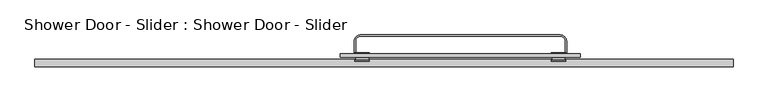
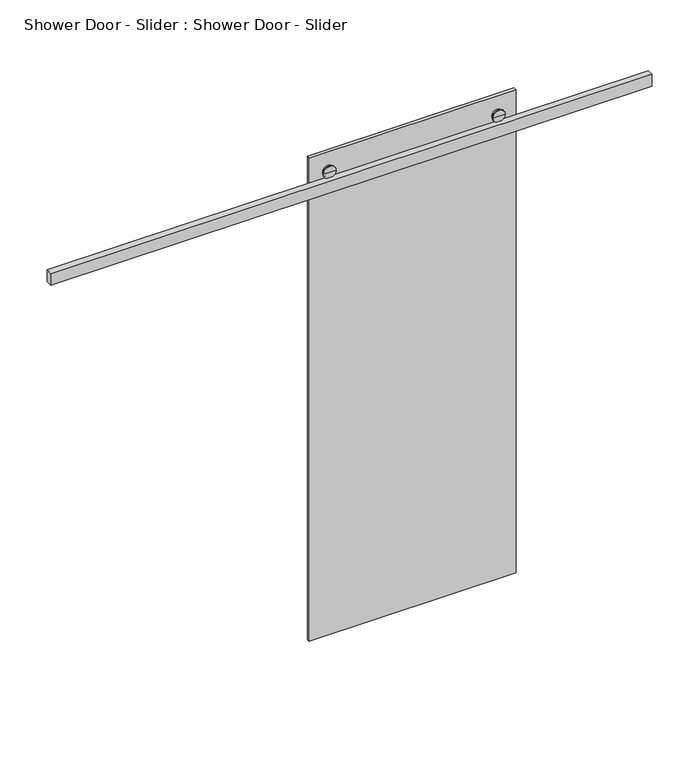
"""IFC4 building model written with IfcOpenShell, lengths in millimetres: plate geometry, Shower Door - Slider : Shower Door - Slider."""

import ifcopenshell
import ifcopenshell.guid

model = None  # the IFC model being written
_history = None  # IfcOwnerHistory: only IFC2X3 demands one
_inside = {}  # id of a spatial element -> (the spatial element, [elements in it])
_under = {}  # id of a project, library or spatial element -> (it, [spatial elements below it])
_declared = {}  # id of a project -> (the project, [libraries it declares])
_typed = {}  # id of a type object -> (the type object, [elements of that type])
_made_of = {}  # id of a material, layer set ... -> (it, [elements and type objects made of it])


def new_model(schema):
    """Start an empty IFC model of exactly this schema.

    Asked for "IFC4X3", IfcOpenShell would pick the latest addendum, in which some entities
    have other attributes; the version numbers below select the first issue.
    IFC2X3 requires an IfcOwnerHistory on every rooted entity: one is made here for all.
    """
    global model, _history
    if schema == "IFC4X3":
        model = ifcopenshell.file(schema_version=(4, 3, 0, 0))
    else:
        model = ifcopenshell.file(schema=schema)
    _inside.clear()
    _under.clear()
    _declared.clear()
    _typed.clear()
    _made_of.clear()
    _history = None
    if model.schema == "IFC2X3":
        org = make("IfcOrganization", Name="unknown")
        user = make(
            "IfcPersonAndOrganization",
            ThePerson=make("IfcPerson", FamilyName="unknown"),
            TheOrganization=org,
        )
        app = make(
            "IfcApplication",
            ApplicationDeveloper=org,
            Version="unknown",
            ApplicationFullName="unknown",
            ApplicationIdentifier="unknown",
        )
        _history = make(
            "IfcOwnerHistory",
            OwningUser=user,
            OwningApplication=app,
            ChangeAction="ADDED",
            CreationDate=0,
        )
    return model


def make(cls, **values):
    """One entity of the class cls with the attributes given. An attribute that is None is left unset."""
    return model.create_entity(
        cls, **{name: value for name, value in values.items() if value is not None}
    )


def rooted(cls, **values):
    """An entity with a GlobalId (a new one), such as an element, a storey or a relation."""
    return make(cls, GlobalId=ifcopenshell.guid.new(), OwnerHistory=_history, **values)


def si_unit(unit_type, name, prefix=None):
    """IfcSIUnit, for example si_unit("LENGTHUNIT", "METRE", prefix="MILLI")."""
    return make("IfcSIUnit", UnitType=unit_type, Prefix=prefix, Name=name)


def assignment(units):
    """IfcUnitAssignment: the units of a project."""
    return None if units is None else make("IfcUnitAssignment", Units=units)


def point(xyz):
    """IfcCartesianPoint."""
    return None if xyz is None else make("IfcCartesianPoint", Coordinates=xyz)


def direction(xyz):
    """IfcDirection."""
    return None if xyz is None else make("IfcDirection", DirectionRatios=xyz)


def frame(location, z_axis=None, x_axis=None):
    """IfcAxis2Placement3D, a coordinate frame: its origin and axes. An axis left out is left unset."""
    return make(
        "IfcAxis2Placement3D",
        Location=point(location),
        Axis=direction(z_axis),
        RefDirection=direction(x_axis),
    )


def frame_2d(location, x_axis=None):
    """IfcAxis2Placement2D, a coordinate frame in the plane: its origin and x axis."""
    return make(
        "IfcAxis2Placement2D", Location=point(location), RefDirection=direction(x_axis)
    )


def origin():
    """The frame at (0, 0, 0) with its axes left unset."""
    return frame((0.0, 0.0, 0.0))


def place(relative_to, where):
    """IfcLocalPlacement: puts the frame where relative to a parent placement (None: the world)."""
    return make(
        "IfcLocalPlacement", PlacementRelTo=relative_to, RelativePlacement=where
    )


def context(
    kind, dimensions, precision=None, world=None, true_north=None, identifier=None
):
    """IfcGeometricRepresentationContext, for example the 3D "Model" context."""
    return make(
        "IfcGeometricRepresentationContext",
        ContextIdentifier=identifier,
        ContextType=kind,
        CoordinateSpaceDimension=dimensions,
        Precision=precision,
        WorldCoordinateSystem=world,
        TrueNorth=true_north,
    )


def project(units=None, contexts=None):
    """IfcProject with its units and contexts."""
    return rooted(
        "IfcProject",
        Name="project",
        RepresentationContexts=contexts,
        UnitsInContext=assignment(units),
    )


def spatial(cls, under=None, at=None, **own):
    """A site, building, storey or space (cls), placed at a placement, below another one or the project."""
    s = rooted(cls, ObjectPlacement=at, **own)
    if under is not None:
        _under.setdefault(under.id(), (under, []))[1].append(s)
    return s


def polyline(points):
    """IfcPolyline through the points."""
    return make("IfcPolyline", Points=[point(p) for p in points])


def circle_curve(where, radius):
    """IfcCircle in the frame where."""
    return make("IfcCircle", Position=where, Radius=radius)


def trimmed(basis, trim1, trim2, sense, master):
    """IfcTrimmedCurve: the piece of a basis curve between two trims."""
    return make(
        "IfcTrimmedCurve",
        BasisCurve=basis,
        Trim1=trim1,
        Trim2=trim2,
        SenseAgreement=sense,
        MasterRepresentation=master,
    )


def segment(curve, same_sense, transition):
    """IfcCompositeCurveSegment."""
    return make(
        "IfcCompositeCurveSegment",
        Transition=transition,
        SameSense=same_sense,
        ParentCurve=curve,
    )


def composite_curve(segments, self_intersect=None):
    """IfcCompositeCurve: segments joined end to end."""
    return make("IfcCompositeCurve", Segments=segments, SelfIntersect=self_intersect)


def outline(outer, holes=None, kind="AREA"):
    """IfcArbitraryClosedProfileDef: a profile drawn as a closed curve; with holes, ...WithVoids."""
    if holes is None:
        return make("IfcArbitraryClosedProfileDef", ProfileType=kind, OuterCurve=outer)
    return make(
        "IfcArbitraryProfileDefWithVoids",
        ProfileType=kind,
        OuterCurve=outer,
        InnerCurves=holes,
    )


def extrude(swept, where, along, depth):
    """IfcExtrudedAreaSolid: the profile swept, set in the frame where, extruded along a direction by depth."""
    return make(
        "IfcExtrudedAreaSolid",
        SweptArea=swept,
        Position=where,
        ExtrudedDirection=direction(along),
        Depth=depth,
    )


def shape(context_of_items, identifier, shape_type, items):
    """IfcShapeRepresentation: the items that make up one representation, for example the "Body"."""
    return make(
        "IfcShapeRepresentation",
        ContextOfItems=context_of_items,
        RepresentationIdentifier=identifier,
        RepresentationType=shape_type,
        Items=items,
    )


def source(mapping_origin, context_of_items, identifier, shape_type, items):
    """IfcRepresentationMap: a shape defined once, which mapped items show again and again."""
    return make(
        "IfcRepresentationMap",
        MappingOrigin=mapping_origin,
        MappedRepresentation=shape(context_of_items, identifier, shape_type, items),
    )


def transform(
    local_origin,
    x_axis=None,
    y_axis=None,
    z_axis=None,
    scale=None,
    scale2=None,
    scale3=None,
    uniform=True,
):
    """IfcCartesianTransformationOperator3D, or its non-uniform kind. x_axis, y_axis, z_axis: its Axis1, 2, 3."""
    if uniform:
        return make(
            "IfcCartesianTransformationOperator3D",
            Axis1=direction(x_axis),
            Axis2=direction(y_axis),
            LocalOrigin=point(local_origin),
            Scale=scale,
            Axis3=direction(z_axis),
        )
    return make(
        "IfcCartesianTransformationOperator3DnonUniform",
        Axis1=direction(x_axis),
        Axis2=direction(y_axis),
        LocalOrigin=point(local_origin),
        Scale=scale,
        Axis3=direction(z_axis),
        Scale2=scale2,
        Scale3=scale3,
    )


def mapped(mapping_source, mapping_target):
    """IfcMappedItem: shows the shape of a source again, moved by a transform."""
    return make(
        "IfcMappedItem", MappingSource=mapping_source, MappingTarget=mapping_target
    )


def made_of(thing, what):
    """Note that an element or type object is made of a material, layer set ...; save() writes the relation."""
    if what is not None:
        _made_of.setdefault(what.id(), (what, []))[1].append(thing)
    return thing


def element(
    cls,
    number,
    at=None,
    inside=None,
    cuts=None,
    type_object=None,
    material=None,
    context=None,
    identifier="Body",
    shape_type=None,
    held_by="IfcProductDefinitionShape",
    body=None,
    shapes=None,
    **own,
):
    """One element of the class cls, such as IfcWall. Its Tag is "e" and its number.

    at: its placement. inside: the storey or other place that contains it. cuts: it is an
    opening in that element (IfcRelVoidsElement). A single representation is given by context,
    identifier, shape_type and body (its items); several are given by shapes. held_by: the class
    of the entity that holds the representations. save() writes the other relations.
    """
    e = rooted(cls, Tag="e%d" % number, ObjectPlacement=at, **own)
    if body is not None:
        shapes = [shape(context, identifier, shape_type, body)]
    if shapes is not None:
        e.Representation = make(held_by, Representations=shapes)
    if inside is not None:
        _inside.setdefault(inside.id(), (inside, []))[1].append(e)
    if cuts is not None:
        rooted(
            "IfcRelVoidsElement", RelatingBuildingElement=cuts, RelatedOpeningElement=e
        )
    if type_object is not None:
        _typed.setdefault(type_object.id(), (type_object, []))[1].append(e)
    return made_of(e, material)


def aggregate(whole, parts):
    """IfcRelAggregates: a whole, such as a stair, and the parts it consists of."""
    return rooted("IfcRelAggregates", RelatingObject=whole, RelatedObjects=parts)


def save(model, path):
    """Write the relations noted so far, then the file.

    IfcRelAggregates (storeys below a building ...), IfcRelContainedInSpatialStructure (elements
    in a storey), IfcRelDefinesByType, IfcRelAssociatesMaterial and IfcRelDeclares: one each for
    every whole, place, type object, material and project.
    """
    for whole, parts in _under.values():
        aggregate(whole, parts)
    for where, things in _inside.values():
        rooted(
            "IfcRelContainedInSpatialStructure",
            RelatedElements=things,
            RelatingStructure=where,
        )
    for kind, things in _typed.values():
        rooted("IfcRelDefinesByType", RelatedObjects=things, RelatingType=kind)
    for what, things in _made_of.values():
        rooted("IfcRelAssociatesMaterial", RelatedObjects=things, RelatingMaterial=what)
    for by, libraries in _declared.values():
        rooted("IfcRelDeclares", RelatingContext=by, RelatedDefinitions=libraries)
    model.write(path)


def plane_surface(at):
    """IfcPlane: the flat surface through the origin of the frame at, square to its z axis."""
    return make("IfcPlane", Position=at)


def cylinder_surface(at, radius):
    """IfcCylindricalSurface: all points at the distance radius from the z axis of the frame at."""
    return make("IfcCylindricalSurface", Position=at, Radius=radius)


def advanced_brep(points, edges, surfaces, faces):
    """IfcAdvancedBrep: a solid bounded by faces that lie on surfaces and meet in shared edges.

    An edge is (start, end): straight between two places in points (the first is 0);
    or (start, end, curve); or (start, end, curve, False) where it runs against its curve.
    A face is (place in surfaces, loops), or (place, loops, False) where it looks against
    its surface's normal. A loop lists edges by number (the first is 1), with a minus sign
    where the edge is run from its end to its start. The first loop is the outer one.
    """
    corners = [point(p) for p in points]
    vertices = [make("IfcVertexPoint", VertexGeometry=c) for c in corners]
    made = []
    for start, end, *more in edges:
        made.append(
            make(
                "IfcEdgeCurve",
                EdgeStart=vertices[start],
                EdgeEnd=vertices[end],
                EdgeGeometry=more[0] if more else make("IfcPolyline", Points=[corners[start], corners[end]]),
                SameSense=more[1] if len(more) > 1 else True,
            )
        )
    hull = []
    for where, loops, *sense in faces:
        bounds = []
        for j, loop in enumerate(loops):
            ring = [make("IfcOrientedEdge", EdgeElement=made[abs(k) - 1], Orientation=k > 0) for k in loop]
            bounds.append(
                make(
                    "IfcFaceOuterBound" if j == 0 else "IfcFaceBound",
                    Bound=make("IfcEdgeLoop", EdgeList=ring),
                    Orientation=True,
                )
            )
        hull.append(make("IfcAdvancedFace", Bounds=bounds, FaceSurface=surfaces[where], SameSense=sense[0] if sense else True))
    return make("IfcAdvancedBrep", Outer=make("IfcClosedShell", CfsFaces=hull))


def shower_door_slider_shower_door_slider_6a6f9825(model_context):
    return source(origin(), model_context, "Body", "SolidModel", [
        extrude(outline(composite_curve([segment(polyline([(-365.9124, 31.75), (-370.6876, 31.75), (-370.6876, 76.2)]), True, "CONTINUOUS"), segment(trimmed(circle_curve(frame_2d((-349.25, 76.2)), 21.4376), [point((-370.6876, 76.2))], [point((-349.25, 97.6376))], False, "CARTESIAN"), True, "CONTINUOUS"), segment(polyline([(-349.25, 97.6376), (349.25, 97.6376)]), True, "CONTINUOUS"), segment(trimmed(circle_curve(frame_2d((349.25, 76.2)), 21.4376), [point((349.25, 97.6376))], [point((370.6876, 76.2))], False, "CARTESIAN"), True, "CONTINUOUS"), segment(polyline([(370.6876, 76.2), (370.6876, 31.75), (365.9124, 31.75), (365.9124, 76.2)]), True, "CONTINUOUS"), segment(trimmed(circle_curve(frame_2d((349.25, 76.2)), 16.6624), [point((365.9124, 76.2))], [point((349.25, 92.8624))], True, "CARTESIAN"), True, "CONTINUOUS"), segment(polyline([(349.25, 92.8624), (-349.25, 92.8624)]), True, "CONTINUOUS"), segment(trimmed(circle_curve(frame_2d((-349.25, 76.2)), 16.6624), [point((-349.25, 92.8624))], [point((-365.9124, 76.2))], True, "CARTESIAN"), True, "CONTINUOUS"), segment(polyline([(-365.9124, 76.2), (-365.9124, 31.75)]), True, "CONTINUOUS")], self_intersect=False)), frame((0.0, 0.0, 876.3), z_axis=(0.0, 0.0, 1.0), x_axis=(1.0, 0.0, 0.0)), (0.0, 0.0, 1.0), 38.1),
        advanced_brep(
        [(368.3, 6.35, 2003.425), (342.9, 6.35, 2003.425), (317.5, 6.35, 2003.425), (368.3, 9.525, 2003.425), (317.5, 9.525, 2003.425), (365.125, 9.525, 2003.425), (320.675, 9.525, 2003.425), (365.125, 19.05, 2003.425), (320.675, 19.05, 2003.425), (342.9, 19.05, 2003.425)],
        [
            (0, 1),
            (1, 2),
            (2, 0, circle_curve(frame((342.9, 6.35, 2003.425), z_axis=(0.0, -1.0, 0.0), x_axis=(-1.0, 0.0, 0.0)), 25.4)),
            (0, 2, circle_curve(frame((342.9, 6.35, 2003.425), z_axis=(0.0, -1.0, 0.0), x_axis=(-1.0, 0.0, 0.0)), 25.4)),
            (3, 0),
            (2, 4),
            (4, 3, circle_curve(frame((342.9, 9.525, 2003.425), z_axis=(0.0, -1.0, 0.0), x_axis=(-1.0, 0.0, 0.0)), 25.4)),
            (3, 4, circle_curve(frame((342.9, 9.525, 2003.425), z_axis=(0.0, -1.0, 0.0), x_axis=(-1.0, 0.0, 0.0)), 25.4)),
            (5, 3),
            (4, 6),
            (6, 5, circle_curve(frame((342.9, 9.525, 2003.425), z_axis=(0.0, -1.0, 0.0), x_axis=(-1.0, 0.0, 0.0)), 22.225)),
            (5, 6, circle_curve(frame((342.9, 9.525, 2003.425), z_axis=(0.0, -1.0, 0.0), x_axis=(-1.0, 0.0, 0.0)), 22.225)),
            (7, 5),
            (6, 8),
            (8, 7, circle_curve(frame((342.9, 19.05, 2003.425), z_axis=(0.0, -1.0, 0.0), x_axis=(-1.0, 0.0, 0.0)), 22.225)),
            (7, 8, circle_curve(frame((342.9, 19.05, 2003.425), z_axis=(0.0, -1.0, 0.0), x_axis=(-1.0, 0.0, 0.0)), 22.225)),
            (9, 7),
            (8, 9),
        ],
        [
            plane_surface(frame((342.9, 6.35, 2003.425), z_axis=(0.0, -1.0, 0.0), x_axis=(-1.0, 0.0, 0.0))),
            cylinder_surface(frame((342.9, 31.75, 2003.425), z_axis=(0.0, 1.0, 0.0), x_axis=(-1.0, 0.0, 0.0)), 25.4),
            plane_surface(frame((342.9, 9.525, 2003.425), z_axis=(0.0, 1.0, 0.0), x_axis=(-1.0, 0.0, 0.0))),
            cylinder_surface(frame((342.9, 31.75, 2003.425), z_axis=(0.0, 1.0, 0.0), x_axis=(-1.0, 0.0, 0.0)), 22.225),
            plane_surface(frame((342.9, 19.05, 2003.425), z_axis=(0.0, 1.0, 0.0), x_axis=(-1.0, 0.0, 0.0))),
        ],
        [
            (0, [[1, 2, 3]]),
            (0, [[-2, -1, 4]]),
            (1, [[5, -3, 6, 7]]),
            (1, [[-6, -4, -5, 8]]),
            (2, [[9, -7, 10, 11]]),
            (2, [[-10, -8, -9, 12]]),
            (3, [[13, -11, 14, 15]]),
            (3, [[-14, -12, -13, 16]]),
            (4, [[17, -15, 18]]),
            (4, [[-18, -16, -17]]),
        ],
    ),
        advanced_brep(
        [(342.9, 34.925, 2003.425), (368.3, 34.925, 2003.425), (317.5, 34.925, 2003.425), (368.3, 31.75, 2003.425), (342.9, 31.75, 2003.425), (317.5, 31.75, 2003.425)],
        [
            (0, 1),
            (1, 2, circle_curve(frame((342.9, 34.925, 2003.425), z_axis=(0.0, 1.0, 0.0), x_axis=(-1.0, 0.0, 0.0)), 25.4)),
            (2, 0),
            (2, 1, circle_curve(frame((342.9, 34.925, 2003.425), z_axis=(0.0, 1.0, 0.0), x_axis=(-1.0, 0.0, 0.0)), 25.4)),
            (3, 4),
            (4, 5),
            (5, 3, circle_curve(frame((342.9, 31.75, 2003.425), z_axis=(0.0, -1.0, 0.0), x_axis=(-1.0, 0.0, 0.0)), 25.4)),
            (3, 5, circle_curve(frame((342.9, 31.75, 2003.425), z_axis=(0.0, -1.0, 0.0), x_axis=(-1.0, 0.0, 0.0)), 25.4)),
            (1, 3),
            (5, 2),
        ],
        [
            plane_surface(frame((342.9, 34.925, 2003.425), z_axis=(0.0, 1.0, 0.0), x_axis=(-1.0, 0.0, 0.0))),
            plane_surface(frame((342.9, 31.75, 2003.425), z_axis=(0.0, -1.0, 0.0), x_axis=(-1.0, 0.0, 0.0))),
            cylinder_surface(frame((342.9, 31.75, 2003.425), z_axis=(0.0, 1.0, 0.0), x_axis=(-1.0, 0.0, 0.0)), 25.4),
        ],
        [
            (0, [[1, 2, 3]]),
            (0, [[-3, 4, -1]]),
            (1, [[5, 6, 7]]),
            (1, [[-6, -5, 8]]),
            (2, [[9, -7, 10, -2]]),
            (2, [[-10, -8, -9, -4]]),
        ],
    ),
        advanced_brep(
        [(-368.3, 6.35, 2003.425), (-317.5, 6.35, 2003.425), (-342.9, 6.35, 2003.425), (-368.3, 9.525, 2003.425), (-317.5, 9.525, 2003.425), (-365.125, 9.525, 2003.425), (-320.675, 9.525, 2003.425), (-365.125, 19.05, 2003.425), (-320.675, 19.05, 2003.425), (-342.9, 19.05, 2003.425)],
        [
            (0, 1, circle_curve(frame((-342.9, 6.35, 2003.425), z_axis=(0.0, -1.0, 0.0), x_axis=(1.0, 0.0, 0.0)), 25.4)),
            (1, 2),
            (2, 0),
            (1, 0, circle_curve(frame((-342.9, 6.35, 2003.425), z_axis=(0.0, -1.0, 0.0), x_axis=(1.0, 0.0, 0.0)), 25.4)),
            (3, 4, circle_curve(frame((-342.9, 9.525, 2003.425), z_axis=(0.0, -1.0, 0.0), x_axis=(1.0, 0.0, 0.0)), 25.4)),
            (4, 1),
            (0, 3),
            (4, 3, circle_curve(frame((-342.9, 9.525, 2003.425), z_axis=(0.0, -1.0, 0.0), x_axis=(1.0, 0.0, 0.0)), 25.4)),
            (5, 6, circle_curve(frame((-342.9, 9.525, 2003.425), z_axis=(0.0, -1.0, 0.0), x_axis=(1.0, 0.0, 0.0)), 22.225)),
            (6, 4),
            (3, 5),
            (6, 5, circle_curve(frame((-342.9, 9.525, 2003.425), z_axis=(0.0, -1.0, 0.0), x_axis=(1.0, 0.0, 0.0)), 22.225)),
            (7, 8, circle_curve(frame((-342.9, 19.05, 2003.425), z_axis=(0.0, -1.0, 0.0), x_axis=(1.0, 0.0, 0.0)), 22.225)),
            (8, 6),
            (5, 7),
            (8, 7, circle_curve(frame((-342.9, 19.05, 2003.425), z_axis=(0.0, -1.0, 0.0), x_axis=(1.0, 0.0, 0.0)), 22.225)),
            (9, 8),
            (7, 9),
        ],
        [
            plane_surface(frame((-342.9, 6.35, 2003.425), z_axis=(0.0, -1.0, 0.0), x_axis=(1.0, 0.0, 0.0))),
            cylinder_surface(frame((-342.9, 31.75, 2003.425), z_axis=(0.0, 1.0, 0.0), x_axis=(1.0, 0.0, 0.0)), 25.4),
            plane_surface(frame((-342.9, 9.525, 2003.425), z_axis=(0.0, 1.0, 0.0), x_axis=(1.0, 0.0, 0.0))),
            cylinder_surface(frame((-342.9, 31.75, 2003.425), z_axis=(0.0, 1.0, 0.0), x_axis=(1.0, 0.0, 0.0)), 22.225),
            plane_surface(frame((-342.9, 19.05, 2003.425), z_axis=(0.0, 1.0, 0.0), x_axis=(1.0, 0.0, 0.0))),
        ],
        [
            (0, [[1, 2, 3]]),
            (0, [[4, -3, -2]]),
            (1, [[5, 6, -1, 7]]),
            (1, [[8, -7, -4, -6]]),
            (2, [[9, 10, -5, 11]]),
            (2, [[12, -11, -8, -10]]),
            (3, [[13, 14, -9, 15]]),
            (3, [[16, -15, -12, -14]]),
            (4, [[17, -13, 18]]),
            (4, [[-18, -16, -17]]),
        ],
    ),
        advanced_brep(
        [(-342.9, 34.925, 2003.425), (-317.5, 34.925, 2003.425), (-368.3, 34.925, 2003.425), (-368.3, 31.75, 2003.425), (-317.5, 31.75, 2003.425), (-342.9, 31.75, 2003.425)],
        [
            (0, 1),
            (1, 2, circle_curve(frame((-342.9, 34.925, 2003.425), z_axis=(0.0, 1.0, 0.0), x_axis=(1.0, 0.0, 0.0)), 25.4)),
            (2, 0),
            (2, 1, circle_curve(frame((-342.9, 34.925, 2003.425), z_axis=(0.0, 1.0, 0.0), x_axis=(1.0, 0.0, 0.0)), 25.4)),
            (3, 4, circle_curve(frame((-342.9, 31.75, 2003.425), z_axis=(0.0, -1.0, 0.0), x_axis=(1.0, 0.0, 0.0)), 25.4)),
            (4, 5),
            (5, 3),
            (4, 3, circle_curve(frame((-342.9, 31.75, 2003.425), z_axis=(0.0, -1.0, 0.0), x_axis=(1.0, 0.0, 0.0)), 25.4)),
            (1, 4),
            (3, 2),
        ],
        [
            plane_surface(frame((-342.9, 34.925, 2003.425), z_axis=(0.0, 1.0, 0.0), x_axis=(1.0, 0.0, 0.0))),
            plane_surface(frame((-342.9, 31.75, 2003.425), z_axis=(0.0, -1.0, 0.0), x_axis=(1.0, 0.0, 0.0))),
            cylinder_surface(frame((-342.9, 31.75, 2003.425), z_axis=(0.0, 1.0, 0.0), x_axis=(1.0, 0.0, 0.0)), 25.4),
        ],
        [
            (0, [[1, 2, 3]]),
            (0, [[-3, 4, -1]]),
            (1, [[5, 6, 7]]),
            (1, [[8, -7, -6]]),
            (2, [[-2, 9, -5, 10]]),
            (2, [[-4, -10, -8, -9]]),
        ],
    ),
        extrude(outline(polyline([(419.1, 31.75), (419.1, 19.05), (-419.1, 19.05), (-419.1, 31.75), (419.1, 31.75)])), frame((0.0, 0.0, 12.7), z_axis=(0.0, 0.0, 1.0), x_axis=(1.0, 0.0, 0.0)), (0.0, 0.0, 1.0), 2070.1),
        extrude(outline(polyline([(952.5, -12.7), (-1485.9, -12.7), (-1485.9, 12.7), (952.5, 12.7), (952.5, -12.7)])), frame((0.0, 0.0, 1930.4), z_axis=(0.0, 0.0, 1.0), x_axis=(1.0, 0.0, 0.0)), (0.0, 0.0, 1.0), 50.8),
    ])


if __name__ == "__main__":
    model = new_model("IFC4")
    model_context = context("Model", 3, world=origin())
    ifc_project = project(units=[si_unit("LENGTHUNIT", "METRE", prefix="MILLI")], contexts=[model_context])
    site = spatial("IfcSite", under=ifc_project)
    building = spatial("IfcBuilding", under=site)
    placement = place(None, origin())
    shower_door_slider_shower_door_slider_shape = shower_door_slider_shower_door_slider_6a6f9825(model_context)
    element("IfcPlate", 1, ObjectType="Shower Door - Slider : Shower Door - Slider", at=placement, inside=building, context=model_context, shape_type="MappedRepresentation", body=[
        mapped(shower_door_slider_shower_door_slider_shape, transform((0.0, 0.0, 0.0), x_axis=(1.0, 0.0, 0.0), y_axis=(0.0, 1.0, 0.0), z_axis=(0.0, 0.0, 1.0))),
    ])
    save(model, "model.ifc")
